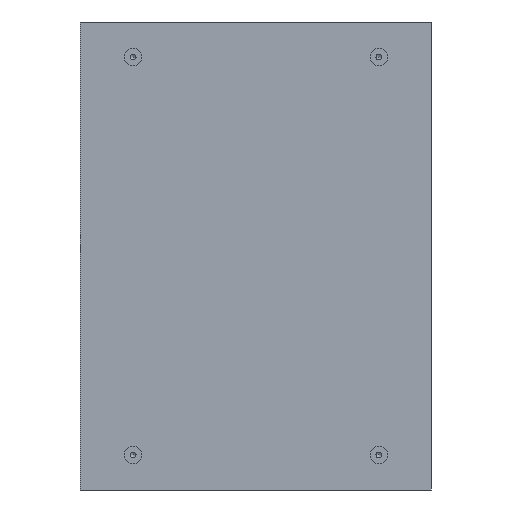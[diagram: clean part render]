
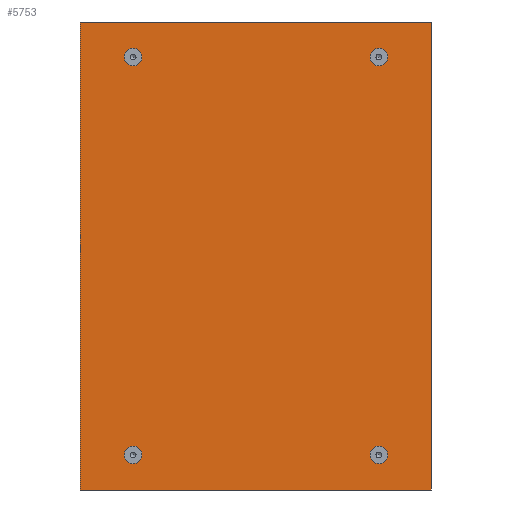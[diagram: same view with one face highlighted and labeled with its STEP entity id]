
A CAD part, left-side view. The second image highlights one B-rep face of the part: STEP entity #5753.
In plain terms, the highlighted planar face has unit normal (-1, 0, 0).
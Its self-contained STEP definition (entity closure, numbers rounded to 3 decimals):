
#479=CIRCLE('',#7645,5.125);
#481=CIRCLE('',#7648,5.125);
#483=CIRCLE('',#7651,5.125);
#484=CIRCLE('',#7680,5.125);
#1667=ORIENTED_EDGE('',*,*,#2663,.T.);
#1668=ORIENTED_EDGE('',*,*,#2664,.T.);
#1669=ORIENTED_EDGE('',*,*,#2665,.T.);
#1670=ORIENTED_EDGE('',*,*,#2666,.T.);
#1671=ORIENTED_EDGE('',*,*,#2561,.F.);
#1672=ORIENTED_EDGE('',*,*,#2563,.F.);
#1673=ORIENTED_EDGE('',*,*,#2565,.F.);
#1674=ORIENTED_EDGE('',*,*,#2667,.F.);
#2561=EDGE_CURVE('',#3163,#3163,#479,.T.);
#2563=EDGE_CURVE('',#3165,#3165,#481,.T.);
#2565=EDGE_CURVE('',#3167,#3167,#483,.T.);
#2663=EDGE_CURVE('',#3242,#3243,#3784,.T.);
#2664=EDGE_CURVE('',#3243,#3244,#3785,.T.);
#2665=EDGE_CURVE('',#3244,#3245,#3786,.T.);
#2666=EDGE_CURVE('',#3245,#3242,#3787,.T.);
#2667=EDGE_CURVE('',#3246,#3246,#484,.T.);
#3163=VERTEX_POINT('',#10619);
#3165=VERTEX_POINT('',#10624);
#3167=VERTEX_POINT('',#10629);
#3242=VERTEX_POINT('',#10830);
#3243=VERTEX_POINT('',#10831);
#3244=VERTEX_POINT('',#10833);
#3245=VERTEX_POINT('',#10835);
#3246=VERTEX_POINT('',#10838);
#3784=LINE('',#10829,#4328);
#3785=LINE('',#10832,#4329);
#3786=LINE('',#10834,#4330);
#3787=LINE('',#10836,#4331);
#4328=VECTOR('',#9104,1000.);
#4329=VECTOR('',#9105,1000.);
#4330=VECTOR('',#9106,1000.);
#4331=VECTOR('',#9107,1000.);
#4734=EDGE_LOOP('',(#1667,#1668,#1669,#1670));
#4735=EDGE_LOOP('',(#1671));
#4736=EDGE_LOOP('',(#1672));
#4737=EDGE_LOOP('',(#1673));
#4738=EDGE_LOOP('',(#1674));
#5156=FACE_BOUND('',#4734,.T.);
#5157=FACE_BOUND('',#4735,.T.);
#5158=FACE_BOUND('',#4736,.T.);
#5159=FACE_BOUND('',#4737,.T.);
#5160=FACE_BOUND('',#4738,.T.);
#5447=PLANE('',#7679);
#5753=ADVANCED_FACE('',(#5156,#5157,#5158,#5159,#5160),#5447,.T.);
#7645=AXIS2_PLACEMENT_3D('',#10618,#8937,#8938);
#7648=AXIS2_PLACEMENT_3D('',#10623,#8943,#8944);
#7651=AXIS2_PLACEMENT_3D('',#10628,#8949,#8950);
#7679=AXIS2_PLACEMENT_3D('',#10828,#9102,#9103);
#7680=AXIS2_PLACEMENT_3D('',#10837,#9108,#9109);
#8937=DIRECTION('',(-1.,0.,0.));
#8938=DIRECTION('',(0.,-1.,0.));
#8943=DIRECTION('',(-1.,0.,0.));
#8944=DIRECTION('',(0.,-1.,0.));
#8949=DIRECTION('',(-1.,0.,0.));
#8950=DIRECTION('',(0.,-1.,0.));
#9102=DIRECTION('',(-1.,0.,0.));
#9103=DIRECTION('',(0.,-1.,0.));
#9104=DIRECTION('',(0.,0.,-1.));
#9105=DIRECTION('',(0.,-1.,0.));
#9106=DIRECTION('',(0.,0.,1.));
#9107=DIRECTION('',(0.,1.,0.));
#9108=DIRECTION('',(-1.,0.,0.));
#9109=DIRECTION('',(0.,-1.,0.));
#10618=CARTESIAN_POINT('',(-1.2,105.,-170.));
#10619=CARTESIAN_POINT('',(-1.2,99.875,-170.));
#10623=CARTESIAN_POINT('',(-1.2,105.,170.));
#10624=CARTESIAN_POINT('',(-1.2,99.875,170.));
#10628=CARTESIAN_POINT('',(-1.2,-105.,-170.));
#10629=CARTESIAN_POINT('',(-1.2,-110.125,-170.));
#10828=CARTESIAN_POINT('',(-1.2,0.,0.));
#10829=CARTESIAN_POINT('',(-1.2,150.,0.));
#10830=CARTESIAN_POINT('',(-1.2,150.,200.));
#10831=CARTESIAN_POINT('',(-1.2,150.,-200.));
#10832=CARTESIAN_POINT('',(-1.2,0.,-200.));
#10833=CARTESIAN_POINT('',(-1.2,-150.,-200.));
#10834=CARTESIAN_POINT('',(-1.2,-150.,0.));
#10835=CARTESIAN_POINT('',(-1.2,-150.,200.));
#10836=CARTESIAN_POINT('',(-1.2,0.,200.));
#10837=CARTESIAN_POINT('',(-1.2,-105.,170.));
#10838=CARTESIAN_POINT('',(-1.2,-110.125,170.));
